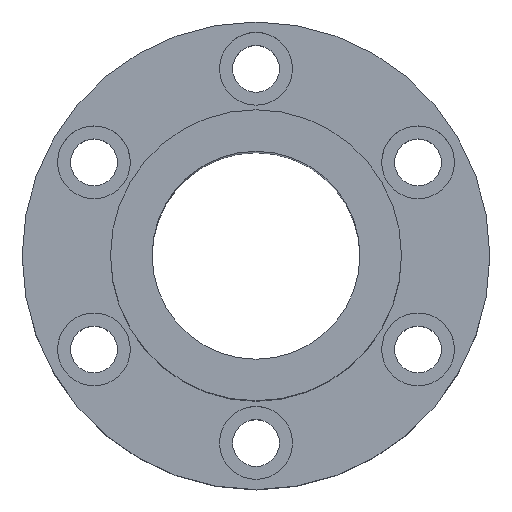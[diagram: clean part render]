
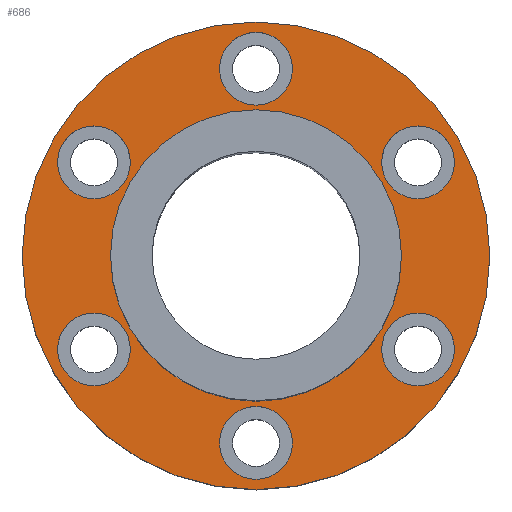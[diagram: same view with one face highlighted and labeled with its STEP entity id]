
A CAD part, top view. The second image highlights one B-rep face of the part: STEP entity #686.
In plain terms, the highlighted planar face has unit normal (0, 0, 1).
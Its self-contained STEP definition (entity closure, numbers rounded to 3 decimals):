
#1=CARTESIAN_POINT('',(0.,0.,17.5));
#2=DIRECTION('',(0.,0.,1.));
#3=DIRECTION('',(1.,0.,0.));
#4=AXIS2_PLACEMENT_3D('',#1,#2,#3);
#6=CARTESIAN_POINT('',(0.,0.,17.5));
#7=DIRECTION('',(0.,0.,1.));
#8=DIRECTION('',(-1.,0.,0.));
#9=AXIS2_PLACEMENT_3D('',#6,#7,#8);
#11=CARTESIAN_POINT('',(31.177,-18.,17.5));
#12=DIRECTION('',(0.,0.,-1.));
#13=DIRECTION('',(-0.5,-0.866,0.));
#14=AXIS2_PLACEMENT_3D('',#11,#12,#13);
#16=CARTESIAN_POINT('',(31.177,-18.,17.5));
#17=DIRECTION('',(0.,0.,-1.));
#18=DIRECTION('',(0.5,0.866,0.));
#19=AXIS2_PLACEMENT_3D('',#16,#17,#18);
#21=CARTESIAN_POINT('',(-31.177,-18.,17.5));
#22=DIRECTION('',(0.,0.,-1.));
#23=DIRECTION('',(-0.5,0.866,0.));
#24=AXIS2_PLACEMENT_3D('',#21,#22,#23);
#26=CARTESIAN_POINT('',(-31.177,-18.,17.5));
#27=DIRECTION('',(0.,0.,-1.));
#28=DIRECTION('',(0.5,-0.866,0.));
#29=AXIS2_PLACEMENT_3D('',#26,#27,#28);
#31=CARTESIAN_POINT('',(0.,36.,17.5));
#32=DIRECTION('',(0.,0.,-1.));
#33=DIRECTION('',(1.,0.,0.));
#34=AXIS2_PLACEMENT_3D('',#31,#32,#33);
#36=CARTESIAN_POINT('',(0.,36.,17.5));
#37=DIRECTION('',(0.,0.,-1.));
#38=DIRECTION('',(-1.,0.,0.));
#39=AXIS2_PLACEMENT_3D('',#36,#37,#38);
#41=CARTESIAN_POINT('',(0.,0.,17.5));
#42=DIRECTION('',(0.,0.,-1.));
#43=DIRECTION('',(1.,0.,0.));
#44=AXIS2_PLACEMENT_3D('',#41,#42,#43);
#46=CARTESIAN_POINT('',(0.,0.,17.5));
#47=DIRECTION('',(0.,0.,-1.));
#48=DIRECTION('',(-1.,0.,0.));
#49=AXIS2_PLACEMENT_3D('',#46,#47,#48);
#51=CARTESIAN_POINT('',(-31.177,18.,17.5));
#52=DIRECTION('',(0.,0.,-1.));
#53=DIRECTION('',(0.5,0.866,0.));
#54=AXIS2_PLACEMENT_3D('',#51,#52,#53);
#56=CARTESIAN_POINT('',(-31.177,18.,17.5));
#57=DIRECTION('',(0.,0.,-1.));
#58=DIRECTION('',(-0.5,-0.866,0.));
#59=AXIS2_PLACEMENT_3D('',#56,#57,#58);
#61=CARTESIAN_POINT('',(0.,-36.,17.5));
#62=DIRECTION('',(0.,0.,-1.));
#63=DIRECTION('',(-1.,0.,0.));
#64=AXIS2_PLACEMENT_3D('',#61,#62,#63);
#66=CARTESIAN_POINT('',(0.,-36.,17.5));
#67=DIRECTION('',(0.,0.,-1.));
#68=DIRECTION('',(1.,0.,0.));
#69=AXIS2_PLACEMENT_3D('',#66,#67,#68);
#71=CARTESIAN_POINT('',(31.177,18.,17.5));
#72=DIRECTION('',(0.,0.,-1.));
#73=DIRECTION('',(0.5,-0.866,0.));
#74=AXIS2_PLACEMENT_3D('',#71,#72,#73);
#76=CARTESIAN_POINT('',(31.177,18.,17.5));
#77=DIRECTION('',(0.,0.,-1.));
#78=DIRECTION('',(-0.5,0.866,0.));
#79=AXIS2_PLACEMENT_3D('',#76,#77,#78);
#561=CARTESIAN_POINT('',(-45.,0.,17.5));
#563=VERTEX_POINT('',#561);
#565=CARTESIAN_POINT('',(45.,0.,17.5));
#567=VERTEX_POINT('',#565);
#569=CARTESIAN_POINT('',(7.,36.,17.5));
#571=VERTEX_POINT('',#569);
#573=CARTESIAN_POINT('',(-7.,36.,17.5));
#575=VERTEX_POINT('',#573);
#577=CARTESIAN_POINT('',(-27.677,24.062,17.5));
#579=VERTEX_POINT('',#577);
#581=CARTESIAN_POINT('',(-34.677,11.938,17.5));
#583=VERTEX_POINT('',#581);
#585=CARTESIAN_POINT('',(-34.677,-11.938,17.5));
#587=VERTEX_POINT('',#585);
#589=CARTESIAN_POINT('',(-27.677,-24.062,17.5));
#591=VERTEX_POINT('',#589);
#593=CARTESIAN_POINT('',(-7.,-36.,17.5));
#595=VERTEX_POINT('',#593);
#597=CARTESIAN_POINT('',(7.,-36.,17.5));
#599=VERTEX_POINT('',#597);
#601=CARTESIAN_POINT('',(27.677,-24.062,17.5));
#603=VERTEX_POINT('',#601);
#605=CARTESIAN_POINT('',(34.677,-11.938,17.5));
#607=VERTEX_POINT('',#605);
#609=CARTESIAN_POINT('',(34.677,11.938,17.5));
#611=VERTEX_POINT('',#609);
#613=CARTESIAN_POINT('',(27.677,24.062,17.5));
#615=VERTEX_POINT('',#613);
#626=CARTESIAN_POINT('',(28.,0.,17.5));
#628=VERTEX_POINT('',#626);
#630=CARTESIAN_POINT('',(-28.,0.,17.5));
#632=VERTEX_POINT('',#630);
#633=CARTESIAN_POINT('',(0.,0.,17.5));
#634=DIRECTION('',(0.,0.,1.));
#635=DIRECTION('',(1.,0.,0.));
#636=AXIS2_PLACEMENT_3D('',#633,#634,#635);
#637=PLANE('',#636);
#639=ORIENTED_EDGE('',*,*,#638,.F.);
#641=ORIENTED_EDGE('',*,*,#640,.F.);
#642=EDGE_LOOP('',(#639,#641));
#643=FACE_OUTER_BOUND('',#642,.F.);
#645=ORIENTED_EDGE('',*,*,#644,.F.);
#647=ORIENTED_EDGE('',*,*,#646,.F.);
#648=EDGE_LOOP('',(#645,#647));
#649=FACE_BOUND('',#648,.F.);
#651=ORIENTED_EDGE('',*,*,#650,.F.);
#653=ORIENTED_EDGE('',*,*,#652,.F.);
#654=EDGE_LOOP('',(#651,#653));
#655=FACE_BOUND('',#654,.F.);
#657=ORIENTED_EDGE('',*,*,#656,.F.);
#659=ORIENTED_EDGE('',*,*,#658,.F.);
#660=EDGE_LOOP('',(#657,#659));
#661=FACE_BOUND('',#660,.F.);
#663=ORIENTED_EDGE('',*,*,#662,.F.);
#665=ORIENTED_EDGE('',*,*,#664,.F.);
#666=EDGE_LOOP('',(#663,#665));
#667=FACE_BOUND('',#666,.F.);
#669=ORIENTED_EDGE('',*,*,#668,.F.);
#671=ORIENTED_EDGE('',*,*,#670,.F.);
#672=EDGE_LOOP('',(#669,#671));
#673=FACE_BOUND('',#672,.F.);
#675=ORIENTED_EDGE('',*,*,#674,.F.);
#677=ORIENTED_EDGE('',*,*,#676,.F.);
#678=EDGE_LOOP('',(#675,#677));
#679=FACE_BOUND('',#678,.F.);
#681=ORIENTED_EDGE('',*,*,#680,.F.);
#683=ORIENTED_EDGE('',*,*,#682,.F.);
#684=EDGE_LOOP('',(#681,#683));
#685=FACE_BOUND('',#684,.F.);
#686=ADVANCED_FACE('',(#643,#649,#655,#661,#667,#673,#679,#685),#637,.T.);
#5=CIRCLE('',#4,45.);
#10=CIRCLE('',#9,45.);
#15=CIRCLE('',#14,7.);
#20=CIRCLE('',#19,7.);
#25=CIRCLE('',#24,7.);
#30=CIRCLE('',#29,7.);
#35=CIRCLE('',#34,7.);
#40=CIRCLE('',#39,7.);
#45=CIRCLE('',#44,28.);
#50=CIRCLE('',#49,28.);
#55=CIRCLE('',#54,7.);
#60=CIRCLE('',#59,7.);
#65=CIRCLE('',#64,7.);
#70=CIRCLE('',#69,7.);
#75=CIRCLE('',#74,7.);
#80=CIRCLE('',#79,7.);
#638=EDGE_CURVE('',#567,#563,#5,.T.);
#640=EDGE_CURVE('',#563,#567,#10,.T.);
#644=EDGE_CURVE('',#603,#607,#15,.T.);
#646=EDGE_CURVE('',#607,#603,#20,.T.);
#650=EDGE_CURVE('',#587,#591,#25,.T.);
#652=EDGE_CURVE('',#591,#587,#30,.T.);
#656=EDGE_CURVE('',#571,#575,#35,.T.);
#658=EDGE_CURVE('',#575,#571,#40,.T.);
#662=EDGE_CURVE('',#628,#632,#45,.T.);
#664=EDGE_CURVE('',#632,#628,#50,.T.);
#668=EDGE_CURVE('',#579,#583,#55,.T.);
#670=EDGE_CURVE('',#583,#579,#60,.T.);
#674=EDGE_CURVE('',#595,#599,#65,.T.);
#676=EDGE_CURVE('',#599,#595,#70,.T.);
#680=EDGE_CURVE('',#611,#615,#75,.T.);
#682=EDGE_CURVE('',#615,#611,#80,.T.);
